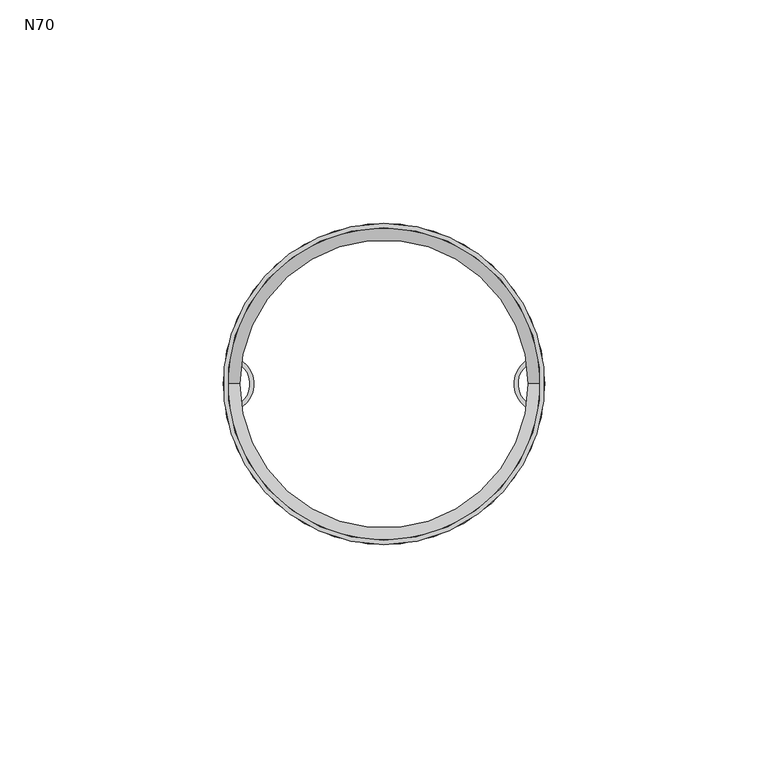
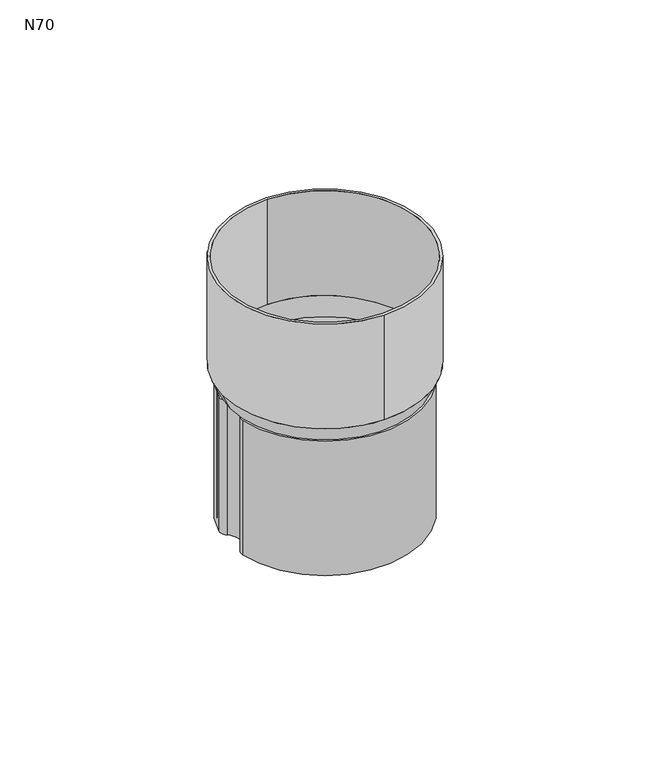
"""IFC4 building model written with IfcOpenShell, lengths in millimetres: proxy geometry, GROVIK_Downpipe_Connector : N70."""

from ifc_helpers import new_model, si_unit, point, frame, frame_2d, origin, origin_with_axes, origin_2d, place, context, project, spatial, polyline, circle_curve, trimmed, segment, composite_curve, outline, extrude, source, transform, mapped, element, save
from ifc_brep_helpers import plane_surface, revolved_surface, advanced_brep


def n70_94fb6929(model_context):
    return source(origin(), model_context, "Body", "SolidModel", [
        extrude(outline(composite_curve([segment(trimmed(circle_curve(origin_2d(), 36.0), [point((0.0, 36.0))], [point((0.0, -36.0))], False, "CARTESIAN"), True, "CONTINUOUS"), segment(trimmed(circle_curve(origin_2d(), 36.0), [point((0.0, -36.0))], [point((0.0, 36.0))], False, "CARTESIAN"), True, "CONTINUOUS")], self_intersect=False), holes=[composite_curve([segment(trimmed(circle_curve(origin_2d(), 35.0), [point((0.0, 35.0))], [point((0.0, -35.0))], True, "CARTESIAN"), True, "CONTINUOUS"), segment(trimmed(circle_curve(origin_2d(), 35.0), [point((0.0, -35.0))], [point((0.0, 35.0))], True, "CARTESIAN"), True, "CONTINUOUS")], self_intersect=False)]), frame((0.0, 0.0, 6.0), z_axis=(0.0, 0.0, 1.0), x_axis=(1.0, 0.0, 0.0)), (0.0, 0.0, 1.0), 39.0),
        advanced_brep(
        [(-36.0, 0.0, 6.0), (36.0, 0.0, 6.0), (35.0, 0.0, 6.0), (-35.0, 0.0, 6.0), (-33.3, 0.0, 0.0), (33.3, 0.0, 0.0), (-32.3, 0.0, 0.0), (32.3, 0.0, 0.0)],
        [
            (0, 1, circle_curve(frame((0.0, 0.0, 6.0), z_axis=(0.0, 0.0, 1.0), x_axis=(-1.0, 0.0, 0.0)), 36.0)),
            (1, 0, circle_curve(frame((0.0, 0.0, 6.0), z_axis=(0.0, 0.0, 1.0), x_axis=(1.0, 0.0, 0.0)), 36.0)),
            (2, 3, circle_curve(frame((0.0, 0.0, 6.0), z_axis=(0.0, 0.0, -1.0), x_axis=(-1.0, 0.0, 0.0)), 35.0)),
            (3, 2, circle_curve(frame((0.0, 0.0, 6.0), z_axis=(0.0, 0.0, -1.0), x_axis=(1.0, 0.0, 0.0)), 35.0)),
            (4, 5, circle_curve(frame((0.0, 0.0, 0.0), z_axis=(0.0, 0.0, -1.0), x_axis=(1.0, 0.0, 0.0)), 33.3)),
            (5, 4, circle_curve(frame((0.0, 0.0, 0.0), z_axis=(0.0, 0.0, -1.0), x_axis=(-1.0, 0.0, 0.0)), 33.3)),
            (6, 7, circle_curve(frame((0.0, 0.0, 0.0), z_axis=(0.0, 0.0, 1.0), x_axis=(-1.0, 0.0, 0.0)), 32.3)),
            (7, 6, circle_curve(origin_with_axes(), 32.3)),
            (0, 4),
            (5, 1),
            (6, 3),
            (2, 7),
        ],
        [
            plane_surface(frame((0.0, 0.0, 6.0), z_axis=(0.0, 0.0, 1.0), x_axis=(0.0, -1.0, 0.0))),
            plane_surface(frame((0.0, 0.0, 0.0), z_axis=(0.0, 0.0, -1.0), x_axis=(0.0, -1.0, 0.0))),
            revolved_surface(polyline([(33.300000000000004, 0.0, 0.0), (36.0, 0.0, 6.0)]), (0.0, 0.0, -74.0), (0.0, 0.0, 1.0)),
            revolved_surface(polyline([(-33.300000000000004, 0.0, 0.0), (-36.0, 0.0, 6.0)]), (0.0, 0.0, -74.0), (0.0, 0.0, 1.0)),
            revolved_surface(polyline([(-35.0, 0.0, 6.0), (-32.300000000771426, 0.0, 0.0)]), (0.0, 0.0, -71.7777778), (0.0, 0.0, 1.0)),
        ],
        [
            (0, [[1, 2], [3, 4]]),
            (1, [[5, 6], [7, 8]]),
            (2, [[-1, 9, -6, 10]]),
            (3, [[-2, -10, -5, -9]]),
            (4, [[11, -3, 12, -7]]),
            (4, [[-11, -8, -12, -4]]),
        ],
    ),
        extrude(outline(composite_curve([segment(trimmed(circle_curve(origin_2d(), 34.0), [point((-33.2289031, 7.2))], [point((33.2289031, 7.2))], False, "CARTESIAN"), True, "CONTINUOUS"), segment(trimmed(circle_curve(frame_2d((30.1934466, 6.6504209)), 3.0848069), [point((33.2289031, 7.2))], [point((32.0721698, 4.2037022))], False, "CARTESIAN"), True, "CONTINUOUS"), segment(trimmed(circle_curve(frame_2d((35.3, 0.0)), 5.3), [point((32.0721698, 4.2037022))], [point((32.0749594, -4.2058428))], True, "CARTESIAN"), True, "CONTINUOUS"), segment(trimmed(circle_curve(frame_2d((30.203401, -6.6465812)), 3.0757007), [point((32.0749594, -4.2058428))], [point((33.2289031, -7.2))], False, "CARTESIAN"), True, "CONTINUOUS"), segment(trimmed(circle_curve(origin_2d(), 34.0), [point((33.2289031, -7.2))], [point((-33.2289031, -7.2))], False, "CARTESIAN"), True, "CONTINUOUS"), segment(trimmed(circle_curve(frame_2d((-30.203401, -6.6465812)), 3.0757007), [point((-33.2289031, -7.2))], [point((-32.0749594, -4.2058428))], False, "CARTESIAN"), True, "CONTINUOUS"), segment(trimmed(circle_curve(frame_2d((-35.3, 0.0)), 5.3), [point((-32.0749594, -4.2058428))], [point((-32.0721698, 4.2037022))], True, "CARTESIAN"), True, "CONTINUOUS"), segment(trimmed(circle_curve(frame_2d((-30.1934466, 6.6504209)), 3.0848069), [point((-32.0721698, 4.2037022))], [point((-33.2289031, 7.2))], False, "CARTESIAN"), True, "CONTINUOUS")], self_intersect=False), holes=[composite_curve([segment(trimmed(circle_curve(frame_2d((-30.1934466, 6.6504209)), 2.0848069), [point((-32.2071275, 7.1903364))], [point((-31.4631452, 4.9968535))], True, "CARTESIAN"), True, "CONTINUOUS"), segment(trimmed(circle_curve(frame_2d((-35.3, 0.0)), 6.3), [point((-31.4631452, 4.9968535))], [point((-31.4664612, -4.999398))], False, "CARTESIAN"), True, "CONTINUOUS"), segment(trimmed(circle_curve(frame_2d((-30.203401, -6.6465812)), 2.0757007), [point((-31.4664612, -4.999398))], [point((-32.2096516, -7.1790209))], True, "CARTESIAN"), True, "CONTINUOUS"), segment(trimmed(circle_curve(origin_2d(), 33.0), [point((-32.2096516, -7.1790209))], [point((32.2096516, -7.1790209))], True, "CARTESIAN"), True, "CONTINUOUS"), segment(trimmed(circle_curve(frame_2d((30.203401, -6.6465812)), 2.0757007), [point((32.2096516, -7.1790209))], [point((31.4664612, -4.999398))], True, "CARTESIAN"), True, "CONTINUOUS"), segment(trimmed(circle_curve(frame_2d((35.3, 0.0)), 6.3), [point((31.4664612, -4.999398))], [point((31.4631452, 4.9968535))], False, "CARTESIAN"), True, "CONTINUOUS"), segment(trimmed(circle_curve(frame_2d((30.1934466, 6.6504209)), 2.0848069), [point((31.4631452, 4.9968535))], [point((32.2071275, 7.1903364))], True, "CARTESIAN"), True, "CONTINUOUS"), segment(trimmed(circle_curve(origin_2d(), 33.0), [point((32.2071275, 7.1903364))], [point((-32.2071275, 7.1903364))], True, "CARTESIAN"), True, "CONTINUOUS")], self_intersect=False)]), frame((0.0, 0.0, -50.0), z_axis=(0.0, 0.0, 1.0), x_axis=(1.0, 0.0, 0.0)), (0.0, 0.0, 1.0), 50.0),
    ])


if __name__ == "__main__":
    model = new_model("IFC4")
    model_context = context("Model", 3, world=origin())
    ifc_project = project(units=[si_unit("LENGTHUNIT", "METRE", prefix="MILLI")], contexts=[model_context])
    site = spatial("IfcSite", under=ifc_project)
    building = spatial("IfcBuilding", under=site)
    placement = place(None, origin())
    n70_shape = n70_94fb6929(model_context)
    element("IfcBuildingElementProxy", 1, Name="GROVIK_Downpipe_Connector : N70", ObjectType="GROVIK_Downpipe_Connector : N70", at=placement, inside=building, context=model_context, shape_type="MappedRepresentation", body=[
        mapped(n70_shape, transform((0.0, 0.0, 0.0), x_axis=(1.0, 0.0, 0.0), y_axis=(0.0, 1.0, 0.0), z_axis=(0.0, 0.0, 1.0))),
    ])
    save(model, "model.ifc")
